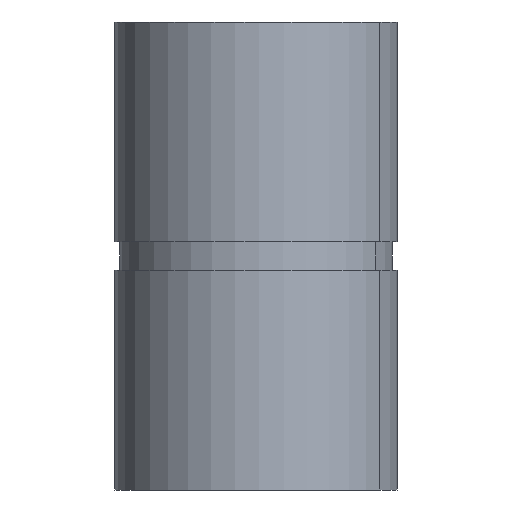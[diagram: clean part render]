
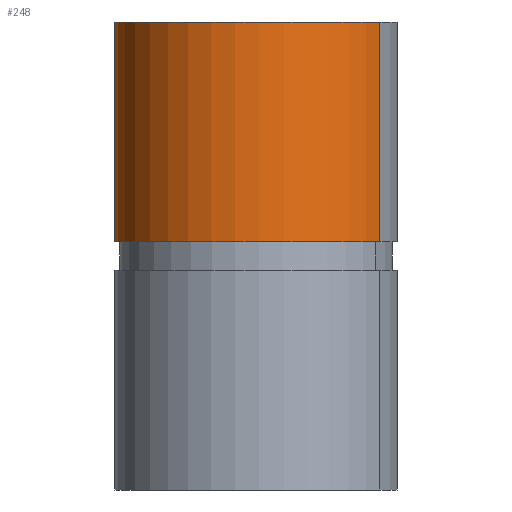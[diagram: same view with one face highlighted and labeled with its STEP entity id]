
A CAD part, left-side view. The second image highlights one B-rep face of the part: STEP entity #248.
In plain terms, the highlighted cylindrical face has radius 30.165 mm (diameter 60.33 mm), a partial arc.
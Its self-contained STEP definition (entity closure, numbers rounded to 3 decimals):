
#132=CARTESIAN_POINT('Vertex',(14.462,26.472,0.)) ;
#134=CARTESIAN_POINT('Vertex',(-14.462,-26.472,0.)) ;
#137=CARTESIAN_POINT('Axis2P3D Location',(0.,0.,0.)) ;
#206=CARTESIAN_POINT('Line Origine',(14.462,26.472,-50.)) ;
#210=CARTESIAN_POINT('Vertex',(14.462,26.472,-47.)) ;
#213=CARTESIAN_POINT('Line Origine',(-14.462,-26.472,-50.)) ;
#217=CARTESIAN_POINT('Vertex',(-14.462,-26.472,-47.)) ;
#232=CARTESIAN_POINT('Axis2P3D Location',(0.,0.,-50.)) ;
#237=CARTESIAN_POINT('Axis2P3D Location',(0.,0.,-47.)) ;
#138=DIRECTION('Axis2P3D Direction',(0.,0.,-1.)) ;
#207=DIRECTION('Vector Direction',(0.,0.,-1.)) ;
#214=DIRECTION('Vector Direction',(0.,0.,-1.)) ;
#233=DIRECTION('Axis2P3D Direction',(-0.,0.,-1.)) ;
#234=DIRECTION('Axis2P3D XDirection',(-0.479,-0.878,0.)) ;
#238=DIRECTION('Axis2P3D Direction',(-0.,0.,-1.)) ;
#139=AXIS2_PLACEMENT_3D('Circle Axis2P3D',#137,#138,$) ;
#235=AXIS2_PLACEMENT_3D('Cylinder Axis2P3D',#232,#233,#234) ;
#239=AXIS2_PLACEMENT_3D('Circle Axis2P3D',#237,#238,$) ;
#243=ORIENTED_EDGE('',*,*,#219,.T.) ;
#244=ORIENTED_EDGE('',*,*,#141,.T.) ;
#245=ORIENTED_EDGE('',*,*,#212,.F.) ;
#246=ORIENTED_EDGE('',*,*,#241,.F.) ;
#208=VECTOR('Line Direction',#207,1.) ;
#215=VECTOR('Line Direction',#214,1.) ;
#248=ADVANCED_FACE('PartBody',(#247),#236,.T.) ;
#140=CIRCLE('generated circle',#139,30.165) ;
#240=CIRCLE('generated circle',#239,30.165) ;
#236=CYLINDRICAL_SURFACE('generated cylinder',#235,30.165) ;
#141=EDGE_CURVE('',#135,#133,#140,.T.) ;
#212=EDGE_CURVE('',#211,#133,#209,.F.) ;
#219=EDGE_CURVE('',#218,#135,#216,.F.) ;
#241=EDGE_CURVE('',#218,#211,#240,.T.) ;
#242=EDGE_LOOP('',(#243,#244,#245,#246)) ;
#247=FACE_OUTER_BOUND('',#242,.T.) ;
#209=LINE('Line',#206,#208) ;
#216=LINE('Line',#213,#215) ;
#133=VERTEX_POINT('',#132) ;
#135=VERTEX_POINT('',#134) ;
#211=VERTEX_POINT('',#210) ;
#218=VERTEX_POINT('',#217) ;
